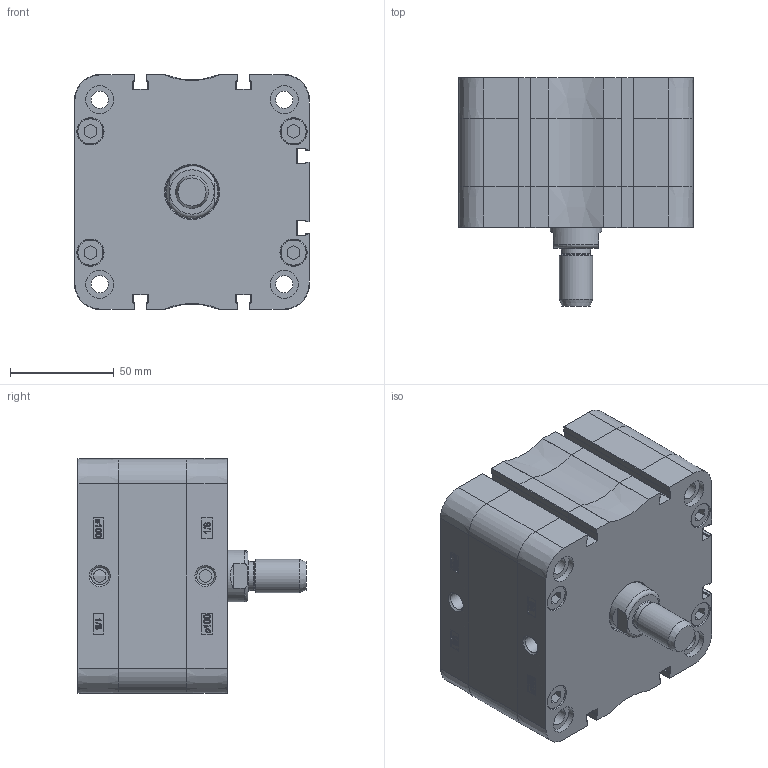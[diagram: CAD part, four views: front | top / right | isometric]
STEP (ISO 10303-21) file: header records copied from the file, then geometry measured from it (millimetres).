
FILE_DESCRIPTION((''),'2;1');
FILE_NAME('T:\Archivio Inventor\- CATALOGHI 2012\SERIE P - NUOVA\PDM\PDM100\PDM100.---.GS.M\PDM100.005.GS.M.stp','2013-02-05T11:37:16',('Administrator'),(''),'Autodesk Inventor 2012','Autodesk Inventor 2012','');
FILE_SCHEMA(('CONFIG_CONTROL_DESIGN'));
Length unit declared in the file: millimetre
Products named in the file (1): PDM100.005.GS.M
Bounding box: 113.3 x 110 x 113.3 mm (x, y, z)
Volume: 512033.3 mm3; surface area: 139165.2 mm2
Topology: 1 solids, 5 shells, 900 faces, 2136 edges, 1312 vertices
Faces by surface type: plane 363, bspline 226, cylinder 148, cone 81, torus 58, sphere 24
Full cylindrical faces by diameter (mm): 6 x2, 8.3 x4, 8.376 x8, 8.566 x2, 9.976 x4, 12 x1, 12.7 x8, 13.1 x8, 13.5 x8, 14 x1, 16 x1, 25 x1, 25.5 x1, 100 x1, 103.5 x1, 103.7 x1
Entity records: 29711 total; most frequent: CARTESIAN_POINT 9979, ORIENTED_EDGE 4030, DIRECTION 3336, EDGE_CURVE 2015, VERTEX_POINT 1291, AXIS2_PLACEMENT_3D 1176, EDGE_LOOP 1080, VECTOR 984
